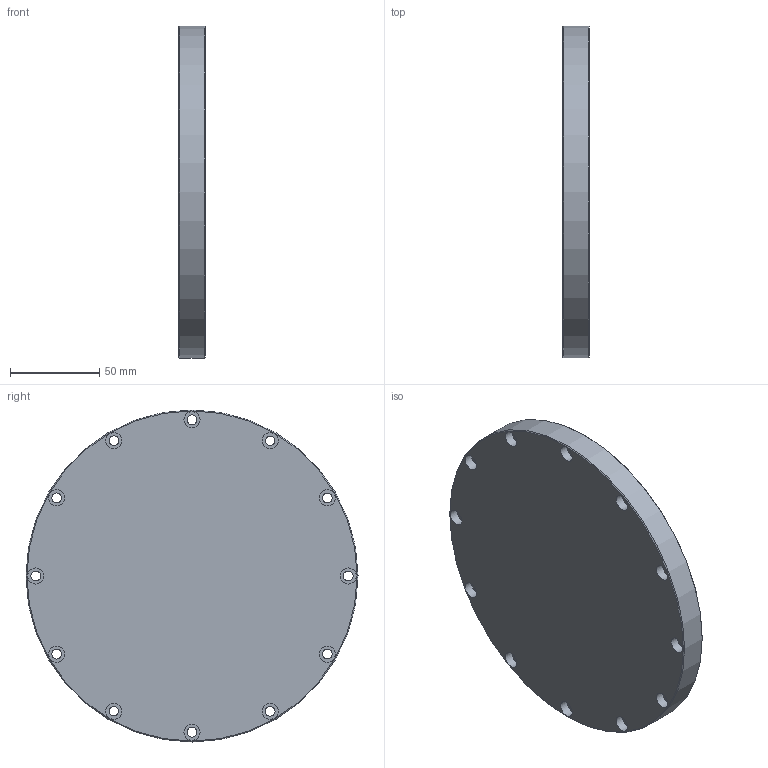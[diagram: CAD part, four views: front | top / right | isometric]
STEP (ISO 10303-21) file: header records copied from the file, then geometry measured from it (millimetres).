
FILE_DESCRIPTION(('FreeCAD Model'),'2;1');
FILE_NAME('Open CASCADE Shape Model','2025-03-25T19:21:09',(''),(''), 'Open CASCADE STEP processor 7.6','FreeCAD','Unknown');
FILE_SCHEMA(('CONFIG_CONTROL_DESIGN','SHAPE_APPEARANCE_LAYER_MIM'));
Length unit declared in the file: millimetre
Products named in the file (1): WallDoorFlange
Bounding box: 15 x 186 x 186 mm (x, y, z)
Volume: 311948.5 mm3; surface area: 70776 mm2
Topology: 1 solids, 1 shells, 53 faces, 100 edges, 64 vertices
Faces by surface type: cylinder 28, plane 17, torus 5, cone 3
Full cylindrical faces by diameter (mm): 5.2 x2, 5.5 x10, 9 x12, 140 x1, 150 x1, 163 x1, 186 x1
Entity records: 1810 total; most frequent: DIRECTION 277, CARTESIAN_POINT 218, ORIENTED_EDGE 200, AXIS2_PLACEMENT_3D 123, EDGE_CURVE 100, FACE_BOUND 92, EDGE_LOOP 92, CIRCLE 69
